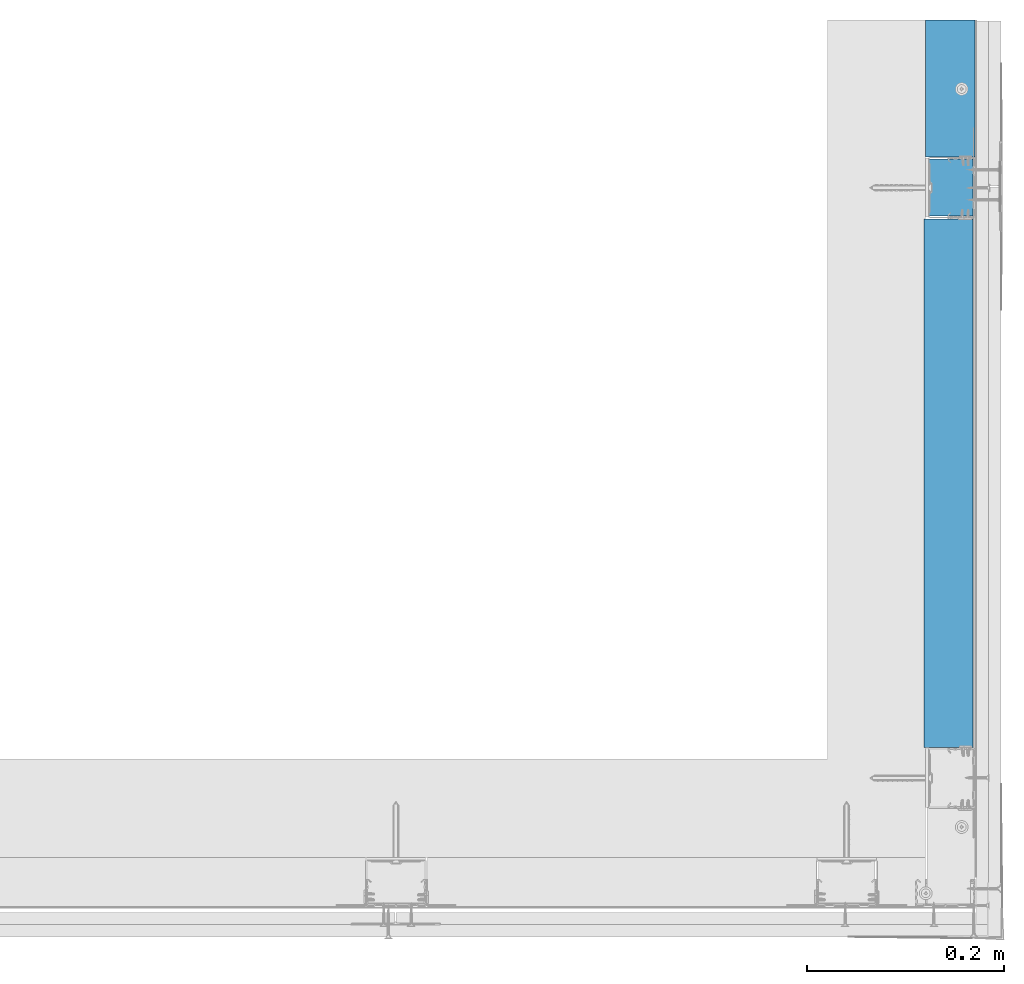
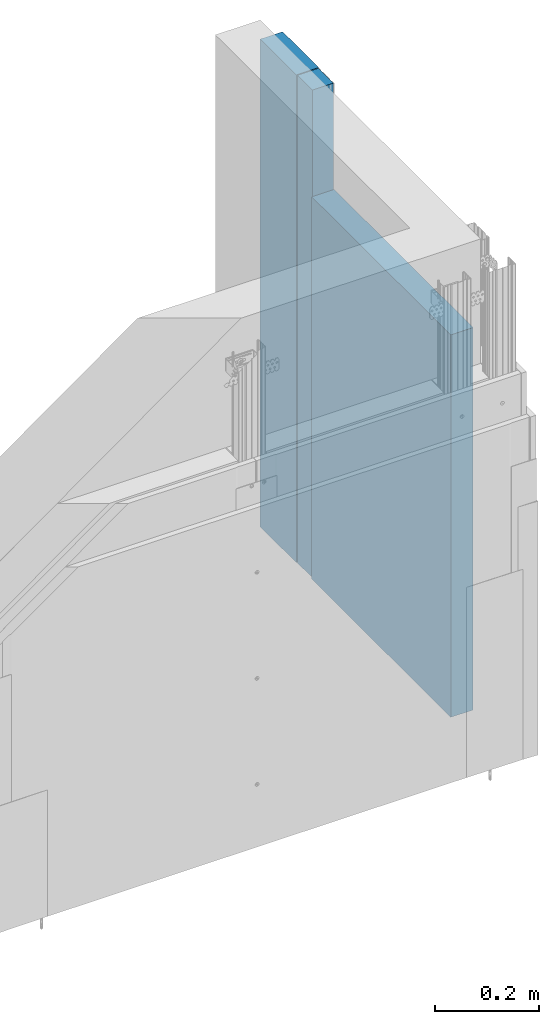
# One storey, part 4 of 56: 3 walls.
"""IFC2X3 building model written with IfcOpenShell, lengths in millimetres."""

import ifcopenshell
import ifcopenshell.guid

model = None  # the IFC model being written
_history = None  # IfcOwnerHistory: only IFC2X3 demands one
_inside = {}  # id of a spatial element -> (the spatial element, [elements in it])
_under = {}  # id of a project, library or spatial element -> (it, [spatial elements below it])
_declared = {}  # id of a project -> (the project, [libraries it declares])
_typed = {}  # id of a type object -> (the type object, [elements of that type])
_made_of = {}  # id of a material, layer set ... -> (it, [elements and type objects made of it])


def new_model(schema):
    """Start an empty IFC model of exactly this schema.

    Asked for "IFC4X3", IfcOpenShell would pick the latest addendum, in which some entities
    have other attributes; the version numbers below select the first issue.
    IFC2X3 requires an IfcOwnerHistory on every rooted entity: one is made here for all.
    """
    global model, _history
    if schema == "IFC4X3":
        model = ifcopenshell.file(schema_version=(4, 3, 0, 0))
    else:
        model = ifcopenshell.file(schema=schema)
    _inside.clear()
    _under.clear()
    _declared.clear()
    _typed.clear()
    _made_of.clear()
    _history = None
    if model.schema == "IFC2X3":
        org = make("IfcOrganization", Name="unknown")
        user = make(
            "IfcPersonAndOrganization",
            ThePerson=make("IfcPerson", FamilyName="unknown"),
            TheOrganization=org,
        )
        app = make(
            "IfcApplication",
            ApplicationDeveloper=org,
            Version="unknown",
            ApplicationFullName="unknown",
            ApplicationIdentifier="unknown",
        )
        _history = make(
            "IfcOwnerHistory",
            OwningUser=user,
            OwningApplication=app,
            ChangeAction="ADDED",
            CreationDate=0,
        )
    return model


def make(cls, **values):
    """One entity of the class cls with the attributes given. An attribute that is None is left unset."""
    return model.create_entity(
        cls, **{name: value for name, value in values.items() if value is not None}
    )


def entity(cls, *values):
    """Any entity or typed value of the class cls, its attributes in the order of the schema. None: left unset."""
    e = model.create_entity(cls)
    for i, value in enumerate(values):
        if value is not None:
            e[i] = value
    return e


def rooted(cls, **values):
    """An entity with a GlobalId (a new one), such as an element, a storey or a relation."""
    return make(cls, GlobalId=ifcopenshell.guid.new(), OwnerHistory=_history, **values)


def si_unit(unit_type, name, prefix=None):
    """IfcSIUnit, for example si_unit("LENGTHUNIT", "METRE", prefix="MILLI")."""
    return make("IfcSIUnit", UnitType=unit_type, Prefix=prefix, Name=name)


def converted_unit(unit_type, name, factor, base, dimensions=None, offset=None):
    """IfcConversionBasedUnit, such as the inch: factor (a typed value) times the base unit."""
    return make(
        "IfcConversionBasedUnit"
        if offset is None
        else "IfcConversionBasedUnitWithOffset",
        ConversionOffset=offset,
        Dimensions=None
        if dimensions is None
        else entity("IfcDimensionalExponents", *dimensions),
        UnitType=unit_type,
        Name=name,
        ConversionFactor=make(
            "IfcMeasureWithUnit", ValueComponent=factor, UnitComponent=base
        ),
    )


def assignment(units):
    """IfcUnitAssignment: the units of a project."""
    return None if units is None else make("IfcUnitAssignment", Units=units)


def point(xyz):
    """IfcCartesianPoint."""
    return None if xyz is None else make("IfcCartesianPoint", Coordinates=xyz)


def direction(xyz):
    """IfcDirection."""
    return None if xyz is None else make("IfcDirection", DirectionRatios=xyz)


def frame(location, z_axis=None, x_axis=None):
    """IfcAxis2Placement3D, a coordinate frame: its origin and axes. An axis left out is left unset."""
    return make(
        "IfcAxis2Placement3D",
        Location=point(location),
        Axis=direction(z_axis),
        RefDirection=direction(x_axis),
    )


def origin():
    """The frame at (0, 0, 0) with its axes left unset."""
    return frame((0.0, 0.0, 0.0))


def origin_with_axes():
    """The frame at (0, 0, 0) with the z axis (0, 0, 1) and the x axis (1, 0, 0) written out."""
    return frame((0.0, 0.0, 0.0), z_axis=(0.0, 0.0, 1.0), x_axis=(1.0, 0.0, 0.0))


def place(relative_to, where):
    """IfcLocalPlacement: puts the frame where relative to a parent placement (None: the world)."""
    return make(
        "IfcLocalPlacement", PlacementRelTo=relative_to, RelativePlacement=where
    )


def context(
    kind, dimensions, precision=None, world=None, true_north=None, identifier=None
):
    """IfcGeometricRepresentationContext, for example the 3D "Model" context."""
    return make(
        "IfcGeometricRepresentationContext",
        ContextIdentifier=identifier,
        ContextType=kind,
        CoordinateSpaceDimension=dimensions,
        Precision=precision,
        WorldCoordinateSystem=world,
        TrueNorth=true_north,
    )


def project(units=None, contexts=None):
    """IfcProject with its units and contexts."""
    return rooted(
        "IfcProject",
        Name="project",
        RepresentationContexts=contexts,
        UnitsInContext=assignment(units),
    )


def spatial(cls, under=None, at=None, **own):
    """A site, building, storey or space (cls), placed at a placement, below another one or the project."""
    s = rooted(cls, ObjectPlacement=at, **own)
    if under is not None:
        _under.setdefault(under.id(), (under, []))[1].append(s)
    return s


def faces_of(points, faces, orient=None, outer=None):
    """IfcFace entities. A face is a list of loops; a loop is a list of indices into points, from 0.

    orient and outer hold one flag for each loop. By default every Orientation is true, the
    first loop of a face is its IfcFaceOuterBound and the others are IfcFaceBound.
    """
    made = []
    for i, loops in enumerate(faces):
        bounds = []
        for j, loop in enumerate(loops):
            is_outer = j == 0 if outer is None else outer[i][j]
            bounds.append(
                make(
                    "IfcFaceOuterBound" if is_outer else "IfcFaceBound",
                    Bound=make("IfcPolyLoop", Polygon=[points[k] for k in loop]),
                    Orientation=True if orient is None else orient[i][j],
                )
            )
        made.append(make("IfcFace", Bounds=bounds))
    return made


def faceted_brep(points, faces, orient=None, outer=None, voids=None):
    """IfcFacetedBrep: a solid bounded by flat faces; with voids (closed shells), ...WithVoids."""
    shared = [point(p) for p in points]
    hull = make("IfcClosedShell", CfsFaces=faces_of(shared, faces, orient, outer))
    if voids is None:
        return make("IfcFacetedBrep", Outer=hull)
    return make(
        "IfcFacetedBrepWithVoids",
        Outer=hull,
        Voids=[
            make(cls, CfsFaces=faces_of(shared, fs, o, b)) for cls, fs, o, b in voids
        ],
    )


def shape(context_of_items, identifier, shape_type, items):
    """IfcShapeRepresentation: the items that make up one representation, for example the "Body"."""
    return make(
        "IfcShapeRepresentation",
        ContextOfItems=context_of_items,
        RepresentationIdentifier=identifier,
        RepresentationType=shape_type,
        Items=items,
    )


def made_of(thing, what):
    """Note that an element or type object is made of a material, layer set ...; save() writes the relation."""
    if what is not None:
        _made_of.setdefault(what.id(), (what, []))[1].append(thing)
    return thing


def element(
    cls,
    number,
    at=None,
    inside=None,
    cuts=None,
    type_object=None,
    material=None,
    context=None,
    identifier="Body",
    shape_type=None,
    held_by="IfcProductDefinitionShape",
    body=None,
    shapes=None,
    **own,
):
    """One element of the class cls, such as IfcWall. Its Tag is "e" and its number.

    at: its placement. inside: the storey or other place that contains it. cuts: it is an
    opening in that element (IfcRelVoidsElement). A single representation is given by context,
    identifier, shape_type and body (its items); several are given by shapes. held_by: the class
    of the entity that holds the representations. save() writes the other relations.
    """
    e = rooted(cls, Tag="e%d" % number, ObjectPlacement=at, **own)
    if body is not None:
        shapes = [shape(context, identifier, shape_type, body)]
    if shapes is not None:
        e.Representation = make(held_by, Representations=shapes)
    if inside is not None:
        _inside.setdefault(inside.id(), (inside, []))[1].append(e)
    if cuts is not None:
        rooted(
            "IfcRelVoidsElement", RelatingBuildingElement=cuts, RelatedOpeningElement=e
        )
    if type_object is not None:
        _typed.setdefault(type_object.id(), (type_object, []))[1].append(e)
    return made_of(e, material)


def aggregate(whole, parts):
    """IfcRelAggregates: a whole, such as a stair, and the parts it consists of."""
    return rooted("IfcRelAggregates", RelatingObject=whole, RelatedObjects=parts)


def save(model, path):
    """Write the relations noted so far, then the file.

    IfcRelAggregates (storeys below a building ...), IfcRelContainedInSpatialStructure (elements
    in a storey), IfcRelDefinesByType, IfcRelAssociatesMaterial and IfcRelDeclares: one each for
    every whole, place, type object, material and project.
    """
    for whole, parts in _under.values():
        aggregate(whole, parts)
    for where, things in _inside.values():
        rooted(
            "IfcRelContainedInSpatialStructure",
            RelatedElements=things,
            RelatingStructure=where,
        )
    for kind, things in _typed.values():
        rooted("IfcRelDefinesByType", RelatedObjects=things, RelatingType=kind)
    for what, things in _made_of.values():
        rooted("IfcRelAssociatesMaterial", RelatedObjects=things, RelatingMaterial=what)
    for by, libraries in _declared.values():
        rooted("IfcRelDeclares", RelatingContext=by, RelatedDefinitions=libraries)
    model.write(path)


model = new_model("IFC2X3")

# Units and contexts
model_context = context("Model", 3, precision=1e-05, world=origin(), true_north=direction((0.0, 1.0, 0.0)))
ifc_project = project(units=[si_unit("LENGTHUNIT", "METRE", prefix="MILLI"), si_unit("AREAUNIT", "SQUARE_METRE"), si_unit("VOLUMEUNIT", "CUBIC_METRE"), converted_unit("PLANEANGLEUNIT", "DEGREE", entity("IfcPlaneAngleMeasure", 0.01745), si_unit("PLANEANGLEUNIT", "RADIAN"), dimensions=[0, 0, 0, 0, 0, 0, 0]), si_unit("SOLIDANGLEUNIT", "STERADIAN"), si_unit("MASSUNIT", "GRAM"), si_unit("TIMEUNIT", "SECOND"), si_unit("THERMODYNAMICTEMPERATUREUNIT", "DEGREE_CELSIUS"), si_unit("LUMINOUSINTENSITYUNIT", "LUMEN")], contexts=[model_context])

# Site, building, storey
site_placement = place(None, origin_with_axes())
site = spatial("IfcSite", under=ifc_project, at=site_placement, Name="Default Site", CompositionType="ELEMENT")
building_placement = place(site_placement, origin_with_axes())
building = spatial("IfcBuilding", under=site, at=building_placement, Name="Default Building", CompositionType="ELEMENT")
storey_placement = place(building_placement, origin_with_axes())
storey = spatial("IfcBuildingStorey", under=building, at=storey_placement, Name="Default Building Storey", CompositionType="ELEMENT", Elevation=0.0)

# Walls
wall_1_placement = place(storey_placement, frame((7119.323841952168, 3438.800815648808, -2.349999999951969), z_axis=(0.0, 0.0, 1.0), x_axis=(1.443289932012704e-14, 1.0, 0.0)))
element("IfcWall", 1, at=wall_1_placement, inside=storey, Name="Wypełnienie z wełny mineralnej szklanej ISOVER", context=model_context, shape_type="Brep", body=[
    faceted_brep([(-705.1247796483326, 3376.283223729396, 1159.734025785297), (-565.7843113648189, 3376.283223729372, 1159.734025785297), (-565.7843113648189, 3376.283223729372, 10.28402578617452), (-705.1247796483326, 3376.283223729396, 10.28402578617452), (-705.1247796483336, 3326.283223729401, 1159.734025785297), (-705.1247796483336, 3326.283223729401, 10.28402578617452), (-565.7843113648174, 3326.283223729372, 10.28402578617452), (-565.7843113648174, 3326.283223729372, 1159.734025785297)], [[[0, 1, 2, 3]], [[4, 0, 3, 5]], [[2, 6, 5, 3]], [[4, 7, 1, 0]], [[5, 6, 7, 4]], [[1, 7, 6, 2]]]),
])
wall_2_placement = place(storey_placement, frame((7119.323841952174, 2899.650815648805, -2.34999999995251), z_axis=(0.0, 0.0, 1.0), x_axis=(1.443289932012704e-14, 1.0, 0.0)))
element("IfcWall", 2, at=wall_2_placement, inside=storey, Name="Wypełnienie z wełny mineralnej szklanej ISOVER", context=model_context, shape_type="Brep", body=[
    faceted_brep([(-168.1247796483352, 3328.283223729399, 1159.734025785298), (-225.8247796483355, 3328.283223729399, 1159.734025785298), (-225.8247796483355, 3328.283223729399, 954.0015786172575), (-225.8247796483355, 3328.283223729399, 10.28402578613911), (-168.1247796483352, 3328.283223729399, 10.28402578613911), (-168.1247796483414, 3370.612995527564, 10.28402578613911), (-168.1247796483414, 3370.612995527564, 1159.734025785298), (-225.8247796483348, 3374.8332237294, 1159.734025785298), (-168.1247796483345, 3374.833223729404, 1159.734025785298), (-168.1247796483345, 3374.833223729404, 10.28402578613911), (-225.8247796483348, 3374.8332237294, 10.28402578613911)], [[[0, 1, 2, 3, 4]], [[4, 5, 6, 0]], [[7, 8, 9, 10]], [[1, 7, 10, 3, 2]], [[9, 5, 4, 3, 10]], [[1, 0, 6, 8, 7]], [[6, 5, 9, 8]]]),
])
wall_3_placement = place(storey_placement, frame((7119.323841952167, 2838.800815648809, -2.349999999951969), z_axis=(0.0, 0.0, 1.0), x_axis=(1.443289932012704e-14, 1.0, 0.0)))
element("IfcWall", 3, at=wall_3_placement, inside=storey, Name="Wypełnienie z wełny mineralnej szklanej ISOVER", context=model_context, shape_type="Brep", body=[
    faceted_brep([(-168.1247796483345, 3328.2832237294, 10.28402578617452), (-168.124779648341, 3370.612995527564, 10.28402578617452), (-168.124779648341, 3370.612995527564, 911.5435974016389), (-168.1247796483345, 3328.2832237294, 911.5435974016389), (-705.1247796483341, 3378.283223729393, 911.5435974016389), (-168.1247796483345, 3378.283223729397, 911.5435974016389), (-168.1247796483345, 3378.283223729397, 10.28402578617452), (-705.1247796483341, 3378.283223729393, 10.28402578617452), (-705.1247796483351, 3328.283223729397, 911.5435974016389), (-705.1247796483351, 3328.283223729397, 10.28402578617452)], [[[0, 1, 2, 3]], [[4, 5, 6, 7]], [[8, 4, 7, 9]], [[6, 1, 0, 9, 7]], [[8, 3, 2, 5, 4]], [[9, 0, 3, 8]], [[2, 1, 6, 5]]]),
])

save(model, "model.ifc")
